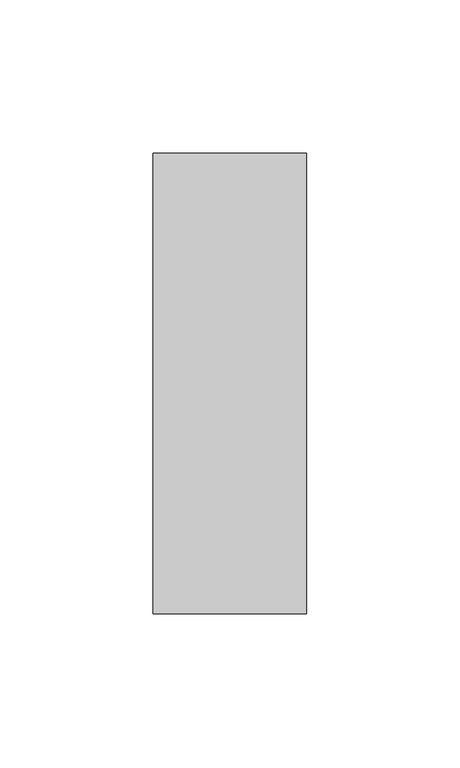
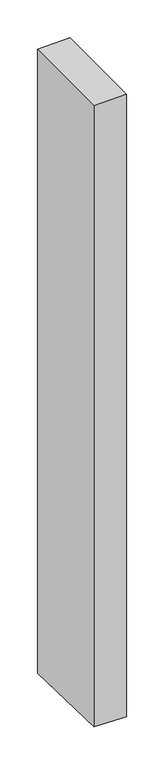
"""IFC4 building model written with IfcOpenShell, lengths in millimetres: member geometry, Прямоугольный импост : 50 x 150 мм."""

import ifcopenshell
import ifcopenshell.guid

model = None  # the IFC model being written
_history = None  # IfcOwnerHistory: only IFC2X3 demands one
_inside = {}  # id of a spatial element -> (the spatial element, [elements in it])
_under = {}  # id of a project, library or spatial element -> (it, [spatial elements below it])
_declared = {}  # id of a project -> (the project, [libraries it declares])
_typed = {}  # id of a type object -> (the type object, [elements of that type])
_made_of = {}  # id of a material, layer set ... -> (it, [elements and type objects made of it])


def new_model(schema):
    """Start an empty IFC model of exactly this schema.

    Asked for "IFC4X3", IfcOpenShell would pick the latest addendum, in which some entities
    have other attributes; the version numbers below select the first issue.
    IFC2X3 requires an IfcOwnerHistory on every rooted entity: one is made here for all.
    """
    global model, _history
    if schema == "IFC4X3":
        model = ifcopenshell.file(schema_version=(4, 3, 0, 0))
    else:
        model = ifcopenshell.file(schema=schema)
    _inside.clear()
    _under.clear()
    _declared.clear()
    _typed.clear()
    _made_of.clear()
    _history = None
    if model.schema == "IFC2X3":
        org = make("IfcOrganization", Name="unknown")
        user = make(
            "IfcPersonAndOrganization",
            ThePerson=make("IfcPerson", FamilyName="unknown"),
            TheOrganization=org,
        )
        app = make(
            "IfcApplication",
            ApplicationDeveloper=org,
            Version="unknown",
            ApplicationFullName="unknown",
            ApplicationIdentifier="unknown",
        )
        _history = make(
            "IfcOwnerHistory",
            OwningUser=user,
            OwningApplication=app,
            ChangeAction="ADDED",
            CreationDate=0,
        )
    return model


def make(cls, **values):
    """One entity of the class cls with the attributes given. An attribute that is None is left unset."""
    return model.create_entity(
        cls, **{name: value for name, value in values.items() if value is not None}
    )


def rooted(cls, **values):
    """An entity with a GlobalId (a new one), such as an element, a storey or a relation."""
    return make(cls, GlobalId=ifcopenshell.guid.new(), OwnerHistory=_history, **values)


def si_unit(unit_type, name, prefix=None):
    """IfcSIUnit, for example si_unit("LENGTHUNIT", "METRE", prefix="MILLI")."""
    return make("IfcSIUnit", UnitType=unit_type, Prefix=prefix, Name=name)


def assignment(units):
    """IfcUnitAssignment: the units of a project."""
    return None if units is None else make("IfcUnitAssignment", Units=units)


def point(xyz):
    """IfcCartesianPoint."""
    return None if xyz is None else make("IfcCartesianPoint", Coordinates=xyz)


def direction(xyz):
    """IfcDirection."""
    return None if xyz is None else make("IfcDirection", DirectionRatios=xyz)


def frame(location, z_axis=None, x_axis=None):
    """IfcAxis2Placement3D, a coordinate frame: its origin and axes. An axis left out is left unset."""
    return make(
        "IfcAxis2Placement3D",
        Location=point(location),
        Axis=direction(z_axis),
        RefDirection=direction(x_axis),
    )


def origin():
    """The frame at (0, 0, 0) with its axes left unset."""
    return frame((0.0, 0.0, 0.0))


def place(relative_to, where):
    """IfcLocalPlacement: puts the frame where relative to a parent placement (None: the world)."""
    return make(
        "IfcLocalPlacement", PlacementRelTo=relative_to, RelativePlacement=where
    )


def context(
    kind, dimensions, precision=None, world=None, true_north=None, identifier=None
):
    """IfcGeometricRepresentationContext, for example the 3D "Model" context."""
    return make(
        "IfcGeometricRepresentationContext",
        ContextIdentifier=identifier,
        ContextType=kind,
        CoordinateSpaceDimension=dimensions,
        Precision=precision,
        WorldCoordinateSystem=world,
        TrueNorth=true_north,
    )


def project(units=None, contexts=None):
    """IfcProject with its units and contexts."""
    return rooted(
        "IfcProject",
        Name="project",
        RepresentationContexts=contexts,
        UnitsInContext=assignment(units),
    )


def spatial(cls, under=None, at=None, **own):
    """A site, building, storey or space (cls), placed at a placement, below another one or the project."""
    s = rooted(cls, ObjectPlacement=at, **own)
    if under is not None:
        _under.setdefault(under.id(), (under, []))[1].append(s)
    return s


def faces_of(points, faces, orient=None, outer=None):
    """IfcFace entities. A face is a list of loops; a loop is a list of indices into points, from 0.

    orient and outer hold one flag for each loop. By default every Orientation is true, the
    first loop of a face is its IfcFaceOuterBound and the others are IfcFaceBound.
    """
    made = []
    for i, loops in enumerate(faces):
        bounds = []
        for j, loop in enumerate(loops):
            is_outer = j == 0 if outer is None else outer[i][j]
            bounds.append(
                make(
                    "IfcFaceOuterBound" if is_outer else "IfcFaceBound",
                    Bound=make("IfcPolyLoop", Polygon=[points[k] for k in loop]),
                    Orientation=True if orient is None else orient[i][j],
                )
            )
        made.append(make("IfcFace", Bounds=bounds))
    return made


def faceted_brep(points, faces, orient=None, outer=None, voids=None):
    """IfcFacetedBrep: a solid bounded by flat faces; with voids (closed shells), ...WithVoids."""
    shared = [point(p) for p in points]
    hull = make("IfcClosedShell", CfsFaces=faces_of(shared, faces, orient, outer))
    if voids is None:
        return make("IfcFacetedBrep", Outer=hull)
    return make(
        "IfcFacetedBrepWithVoids",
        Outer=hull,
        Voids=[
            make(cls, CfsFaces=faces_of(shared, fs, o, b)) for cls, fs, o, b in voids
        ],
    )


def shape(context_of_items, identifier, shape_type, items):
    """IfcShapeRepresentation: the items that make up one representation, for example the "Body"."""
    return make(
        "IfcShapeRepresentation",
        ContextOfItems=context_of_items,
        RepresentationIdentifier=identifier,
        RepresentationType=shape_type,
        Items=items,
    )


def source(mapping_origin, context_of_items, identifier, shape_type, items):
    """IfcRepresentationMap: a shape defined once, which mapped items show again and again."""
    return make(
        "IfcRepresentationMap",
        MappingOrigin=mapping_origin,
        MappedRepresentation=shape(context_of_items, identifier, shape_type, items),
    )


def transform(
    local_origin,
    x_axis=None,
    y_axis=None,
    z_axis=None,
    scale=None,
    scale2=None,
    scale3=None,
    uniform=True,
):
    """IfcCartesianTransformationOperator3D, or its non-uniform kind. x_axis, y_axis, z_axis: its Axis1, 2, 3."""
    if uniform:
        return make(
            "IfcCartesianTransformationOperator3D",
            Axis1=direction(x_axis),
            Axis2=direction(y_axis),
            LocalOrigin=point(local_origin),
            Scale=scale,
            Axis3=direction(z_axis),
        )
    return make(
        "IfcCartesianTransformationOperator3DnonUniform",
        Axis1=direction(x_axis),
        Axis2=direction(y_axis),
        LocalOrigin=point(local_origin),
        Scale=scale,
        Axis3=direction(z_axis),
        Scale2=scale2,
        Scale3=scale3,
    )


def mapped(mapping_source, mapping_target):
    """IfcMappedItem: shows the shape of a source again, moved by a transform."""
    return make(
        "IfcMappedItem", MappingSource=mapping_source, MappingTarget=mapping_target
    )


def made_of(thing, what):
    """Note that an element or type object is made of a material, layer set ...; save() writes the relation."""
    if what is not None:
        _made_of.setdefault(what.id(), (what, []))[1].append(thing)
    return thing


def element(
    cls,
    number,
    at=None,
    inside=None,
    cuts=None,
    type_object=None,
    material=None,
    context=None,
    identifier="Body",
    shape_type=None,
    held_by="IfcProductDefinitionShape",
    body=None,
    shapes=None,
    **own,
):
    """One element of the class cls, such as IfcWall. Its Tag is "e" and its number.

    at: its placement. inside: the storey or other place that contains it. cuts: it is an
    opening in that element (IfcRelVoidsElement). A single representation is given by context,
    identifier, shape_type and body (its items); several are given by shapes. held_by: the class
    of the entity that holds the representations. save() writes the other relations.
    """
    e = rooted(cls, Tag="e%d" % number, ObjectPlacement=at, **own)
    if body is not None:
        shapes = [shape(context, identifier, shape_type, body)]
    if shapes is not None:
        e.Representation = make(held_by, Representations=shapes)
    if inside is not None:
        _inside.setdefault(inside.id(), (inside, []))[1].append(e)
    if cuts is not None:
        rooted(
            "IfcRelVoidsElement", RelatingBuildingElement=cuts, RelatedOpeningElement=e
        )
    if type_object is not None:
        _typed.setdefault(type_object.id(), (type_object, []))[1].append(e)
    return made_of(e, material)


def aggregate(whole, parts):
    """IfcRelAggregates: a whole, such as a stair, and the parts it consists of."""
    return rooted("IfcRelAggregates", RelatingObject=whole, RelatedObjects=parts)


def save(model, path):
    """Write the relations noted so far, then the file.

    IfcRelAggregates (storeys below a building ...), IfcRelContainedInSpatialStructure (elements
    in a storey), IfcRelDefinesByType, IfcRelAssociatesMaterial and IfcRelDeclares: one each for
    every whole, place, type object, material and project.
    """
    for whole, parts in _under.values():
        aggregate(whole, parts)
    for where, things in _inside.values():
        rooted(
            "IfcRelContainedInSpatialStructure",
            RelatedElements=things,
            RelatingStructure=where,
        )
    for kind, things in _typed.values():
        rooted("IfcRelDefinesByType", RelatedObjects=things, RelatingType=kind)
    for what, things in _made_of.values():
        rooted("IfcRelAssociatesMaterial", RelatedObjects=things, RelatingMaterial=what)
    for by, libraries in _declared.values():
        rooted("IfcRelDeclares", RelatingContext=by, RelatedDefinitions=libraries)
    model.write(path)


def member_f73c6426(model_context):
    return source(origin(), model_context, "Body", "Brep", [
        faceted_brep([(-25.0, 75.0, -0.1761231), (25.0, 75.0, 0.9453095), (25.0, 75.0, -1013.0913366), (-25.0, 75.0, -1011.8840951), (-25.0, -75.0, -0.9453095), (-25.0, -75.0, -1007.1488863), (25.0, -75.0, 0.1761231), (25.0, -75.0, -1008.3561279)], [[[0, 1, 2, 3]], [[4, 0, 3, 5]], [[6, 4, 5, 7]], [[1, 6, 7, 2]], [[1, 0, 4, 6]], [[2, 7, 5, 3]]]),
    ])


if __name__ == "__main__":
    model = new_model("IFC4")
    model_context = context("Model", 3, world=origin())
    ifc_project = project(units=[si_unit("LENGTHUNIT", "METRE", prefix="MILLI")], contexts=[model_context])
    site = spatial("IfcSite", under=ifc_project)
    building = spatial("IfcBuilding", under=site)
    placement = place(None, origin())
    member_shape = member_f73c6426(model_context)
    element("IfcMember", 1, ObjectType="Прямоугольный импост : 50 x 150 мм", at=placement, inside=building, context=model_context, shape_type="MappedRepresentation", body=[
        mapped(member_shape, transform((0.0, 0.0, 0.0), x_axis=(1.0, 0.0, 0.0), y_axis=(0.0, 1.0, 0.0), z_axis=(0.0, 0.0, 1.0))),
    ])
    save(model, "model.ifc")
